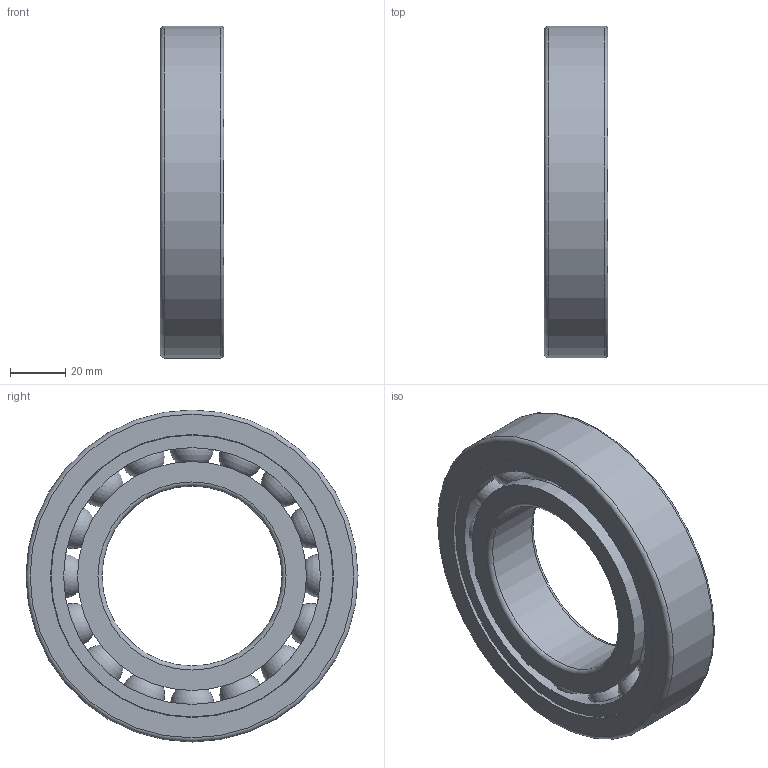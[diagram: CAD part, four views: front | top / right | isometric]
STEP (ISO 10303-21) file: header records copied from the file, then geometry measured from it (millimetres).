
FILE_DESCRIPTION(/* description */ (''),/* implementation_level */ '2;1');
FILE_NAME(/* name */ 'S_6213_TA.step',/* time_stamp */ '2013-03-06T14:49:27+01:00',/* author */ ('Marian'),/* organization */ ('GMN'),/* preprocessor_version */ 'ST-DEVELOPER v11',/* originating_system */ 'SIEMENS UGS NX 6.0',/* authorisation */ '');
FILE_SCHEMA (('CONFIG_CONTROL_DESIGN'));
Length unit declared in the file: millimetre
Products named in the file (1): S_6213_TA
Bounding box: 23 x 120 x 120 mm (x, y, z)
Volume: 142994.7 mm3; surface area: 61779.9 mm2
Topology: 19 solids, 19 shells, 52 faces, 134 edges, 86 vertices
Faces by surface type: cylinder 23, sphere 16, torus 6, plane 6, cone 1
Full cylindrical faces by diameter (mm): 16.075 x16, 65 x1, 82.8 x2, 92.795 x1, 101.9 x1, 102.3 x1, 120 x1
Entity records: 1682 total; most frequent: CARTESIAN_POINT 717, DIRECTION 146, FACE_BOUND 120, EDGE_LOOP 104, ORIENTED_EDGE 104, AXIS2_PLACEMENT_3D 73, VERTEX_POINT 68, EDGE_CURVE 52
